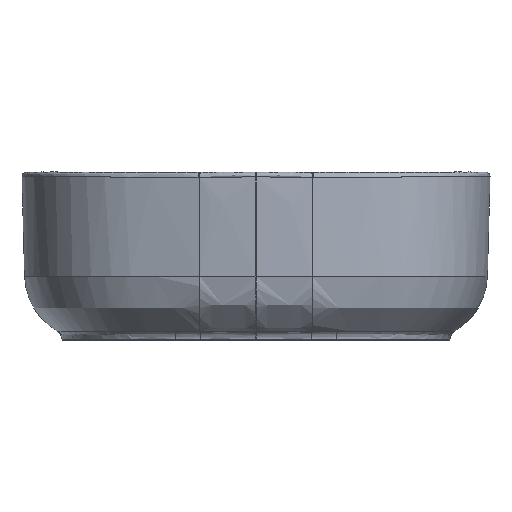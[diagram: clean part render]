
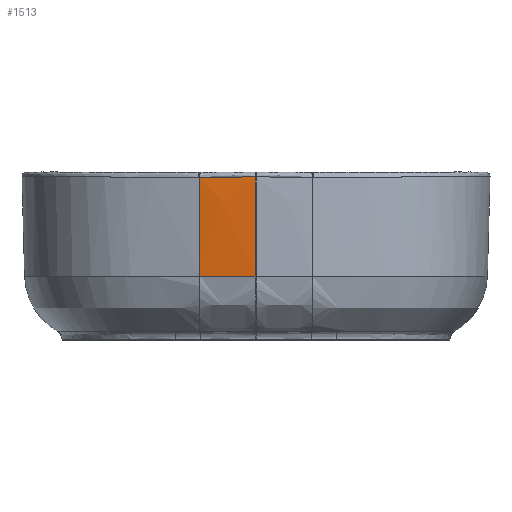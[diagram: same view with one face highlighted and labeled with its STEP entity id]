
A CAD part, front view. The second image highlights one B-rep face of the part: STEP entity #1513.
In plain terms, the highlighted free-form (B-spline) face has degree [5, 5] with [6, 15] control points.
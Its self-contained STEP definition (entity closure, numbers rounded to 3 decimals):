
#1513=ADVANCED_FACE('',(#1646),#3912,.T.);
#1646=FACE_OUTER_BOUND('',#1780,.T.);
#1780=EDGE_LOOP('',(#1998,#1999,#2000,#2001));
#1998=ORIENTED_EDGE('',*,*,#2498,.T.);
#1999=ORIENTED_EDGE('',*,*,#2501,.T.);
#2000=ORIENTED_EDGE('',*,*,#2500,.T.);
#2001=ORIENTED_EDGE('',*,*,#2499,.T.);
#2498=EDGE_CURVE('',#3498,#3501,#2998,.T.);
#2499=EDGE_CURVE('',#3499,#3498,#2999,.T.);
#2500=EDGE_CURVE('',#3500,#3499,#3000,.T.);
#2501=EDGE_CURVE('',#3501,#3500,#3001,.T.);
#2998=B_SPLINE_CURVE_WITH_KNOTS('',5,(#13649,#13650,#13651,#13652,#13653,
#13654,#13655,#13656,#13657,#13658,#13659,#13660,#13661,#13662,#13663,#13664,
#13665,#13666,#13667,#13668,#13669,#13670,#13671,#13672,#13673,#13674,#13675,
#13676,#13677,#13678),.UNSPECIFIED.,.F.,.F.,(6,3,3,3,3,3,3,3,3,6),(0.,4.692,
9.384,18.768,37.536,46.92,56.303,75.071,
112.607,150.143),.UNSPECIFIED.);
#2999=B_SPLINE_CURVE_WITH_KNOTS('',4,(#13679,#13680,#13681,#13682,#13683),
 .UNSPECIFIED.,.F.,.F.,(5,5),(360.352,433.81),.UNSPECIFIED.);
#3000=B_SPLINE_CURVE_WITH_KNOTS('',3,(#13684,#13685,#13686,#13687),
 .UNSPECIFIED.,.F.,.F.,(4,4),(210.59,360.352),.UNSPECIFIED.);
#3001=B_SPLINE_CURVE_WITH_KNOTS('',3,(#13688,#13689,#13690,#13691),
 .UNSPECIFIED.,.F.,.F.,(4,4),(150.143,210.59),.UNSPECIFIED.);
#3498=VERTEX_POINT('',#13645);
#3499=VERTEX_POINT('',#13646);
#3500=VERTEX_POINT('',#13647);
#3501=VERTEX_POINT('',#13648);
#3912=B_SPLINE_SURFACE_WITH_KNOTS('',5,5,((#13555,#13556,#13557,#13558,
#13559,#13560,#13561,#13562,#13563,#13564,#13565,#13566,#13567,#13568,#13569),
(#13570,#13571,#13572,#13573,#13574,#13575,#13576,#13577,#13578,#13579,
#13580,#13581,#13582,#13583,#13584),(#13585,#13586,#13587,#13588,#13589,
#13590,#13591,#13592,#13593,#13594,#13595,#13596,#13597,#13598,#13599),
(#13600,#13601,#13602,#13603,#13604,#13605,#13606,#13607,#13608,#13609,
#13610,#13611,#13612,#13613,#13614),(#13615,#13616,#13617,#13618,#13619,
#13620,#13621,#13622,#13623,#13624,#13625,#13626,#13627,#13628,#13629),
(#13630,#13631,#13632,#13633,#13634,#13635,#13636,#13637,#13638,#13639,
#13640,#13641,#13642,#13643,#13644)),.UNSPECIFIED.,.F.,.F.,.F.,(6,6),(6,
3,3,3,6),(0.,120.895),(0.,74.881,112.322,149.763,168.483),
 .UNSPECIFIED.);
#13555=CARTESIAN_POINT('',(60.,-191.2,-111.832));
#13556=CARTESIAN_POINT('',(60.,-191.485,-101.246));
#13557=CARTESIAN_POINT('',(60.,-191.77,-90.66));
#13558=CARTESIAN_POINT('',(60.,-192.055,-80.074));
#13559=CARTESIAN_POINT('',(60.,-192.483,-64.195));
#13560=CARTESIAN_POINT('',(60.,-192.91,-48.316));
#13561=CARTESIAN_POINT('',(60.,-193.053,-43.023));
#13562=CARTESIAN_POINT('',(60.,-193.338,-32.437));
#13563=CARTESIAN_POINT('',(60.,-193.623,-21.851));
#13564=CARTESIAN_POINT('',(60.,-193.765,-16.558));
#13565=CARTESIAN_POINT('',(60.,-193.979,-8.618));
#13566=CARTESIAN_POINT('',(60.,-194.193,-0.678));
#13567=CARTESIAN_POINT('',(60.,-194.264,1.968));
#13568=CARTESIAN_POINT('',(60.,-194.335,4.615));
#13569=CARTESIAN_POINT('',(60.,-194.407,7.261));
#13570=CARTESIAN_POINT('',(35.996,-195.12,-111.935));
#13571=CARTESIAN_POINT('',(35.997,-195.411,-101.349));
#13572=CARTESIAN_POINT('',(35.998,-195.701,-90.763));
#13573=CARTESIAN_POINT('',(35.999,-195.988,-80.177));
#13574=CARTESIAN_POINT('',(35.999,-196.416,-64.298));
#13575=CARTESIAN_POINT('',(35.999,-196.842,-48.419));
#13576=CARTESIAN_POINT('',(35.996,-196.964,-43.054));
#13577=CARTESIAN_POINT('',(36.003,-197.287,-32.612));
#13578=CARTESIAN_POINT('',(35.996,-197.531,-21.881));
#13579=CARTESIAN_POINT('',(36.014,-197.774,-16.962));
#13580=CARTESIAN_POINT('',(35.977,-197.77,-8.225));
#13581=CARTESIAN_POINT('',(36.024,-198.255,-1.292));
#13582=CARTESIAN_POINT('',(36.041,-198.424,1.117));
#13583=CARTESIAN_POINT('',(36.057,-198.593,3.527));
#13584=CARTESIAN_POINT('',(36.074,-198.761,5.936));
#13585=CARTESIAN_POINT('',(11.997,-197.08,-111.986));
#13586=CARTESIAN_POINT('',(11.998,-197.375,-101.4));
#13587=CARTESIAN_POINT('',(11.999,-197.666,-90.814));
#13588=CARTESIAN_POINT('',(11.999,-197.954,-80.228));
#13589=CARTESIAN_POINT('',(11.999,-198.383,-64.349));
#13590=CARTESIAN_POINT('',(12.,-198.808,-48.47));
#13591=CARTESIAN_POINT('',(11.997,-198.92,-43.069));
#13592=CARTESIAN_POINT('',(12.002,-199.261,-32.699));
#13593=CARTESIAN_POINT('',(11.997,-199.485,-21.897));
#13594=CARTESIAN_POINT('',(12.01,-199.778,-17.165));
#13595=CARTESIAN_POINT('',(11.982,-199.666,-8.029));
#13596=CARTESIAN_POINT('',(12.018,-200.287,-1.599));
#13597=CARTESIAN_POINT('',(12.031,-200.508,0.691));
#13598=CARTESIAN_POINT('',(12.044,-200.729,2.98));
#13599=CARTESIAN_POINT('',(12.056,-200.95,5.27));
#13600=CARTESIAN_POINT('',(-11.997,-197.08,-111.986));
#13601=CARTESIAN_POINT('',(-11.998,-197.374,-101.4));
#13602=CARTESIAN_POINT('',(-11.999,-197.666,-90.814));
#13603=CARTESIAN_POINT('',(-11.999,-197.954,-80.228));
#13604=CARTESIAN_POINT('',(-11.999,-198.383,-64.349));
#13605=CARTESIAN_POINT('',(-12.,-198.808,-48.47));
#13606=CARTESIAN_POINT('',(-11.997,-198.92,-43.069));
#13607=CARTESIAN_POINT('',(-12.002,-199.261,-32.699));
#13608=CARTESIAN_POINT('',(-11.997,-199.485,-21.897));
#13609=CARTESIAN_POINT('',(-12.01,-199.778,-17.165));
#13610=CARTESIAN_POINT('',(-11.982,-199.666,-8.029));
#13611=CARTESIAN_POINT('',(-12.018,-200.287,-1.599));
#13612=CARTESIAN_POINT('',(-12.031,-200.508,0.691));
#13613=CARTESIAN_POINT('',(-12.044,-200.729,2.98));
#13614=CARTESIAN_POINT('',(-12.056,-200.95,5.27));
#13615=CARTESIAN_POINT('',(-35.996,-195.12,-111.935));
#13616=CARTESIAN_POINT('',(-35.997,-195.411,-101.349));
#13617=CARTESIAN_POINT('',(-35.998,-195.701,-90.763));
#13618=CARTESIAN_POINT('',(-35.999,-195.988,-80.177));
#13619=CARTESIAN_POINT('',(-35.999,-196.416,-64.298));
#13620=CARTESIAN_POINT('',(-35.999,-196.842,-48.419));
#13621=CARTESIAN_POINT('',(-35.996,-196.964,-43.054));
#13622=CARTESIAN_POINT('',(-36.003,-197.287,-32.612));
#13623=CARTESIAN_POINT('',(-35.996,-197.531,-21.881));
#13624=CARTESIAN_POINT('',(-36.014,-197.774,-16.962));
#13625=CARTESIAN_POINT('',(-35.977,-197.77,-8.225));
#13626=CARTESIAN_POINT('',(-36.024,-198.255,-1.292));
#13627=CARTESIAN_POINT('',(-36.041,-198.424,1.117));
#13628=CARTESIAN_POINT('',(-36.057,-198.593,3.527));
#13629=CARTESIAN_POINT('',(-36.074,-198.761,5.936));
#13630=CARTESIAN_POINT('',(-60.,-191.2,-111.832));
#13631=CARTESIAN_POINT('',(-60.,-191.485,-101.246));
#13632=CARTESIAN_POINT('',(-60.,-191.77,-90.66));
#13633=CARTESIAN_POINT('',(-60.,-192.055,-80.074));
#13634=CARTESIAN_POINT('',(-60.,-192.483,-64.195));
#13635=CARTESIAN_POINT('',(-60.,-192.91,-48.316));
#13636=CARTESIAN_POINT('',(-60.,-193.053,-43.023));
#13637=CARTESIAN_POINT('',(-60.,-193.338,-32.437));
#13638=CARTESIAN_POINT('',(-60.,-193.623,-21.851));
#13639=CARTESIAN_POINT('',(-60.,-193.765,-16.558));
#13640=CARTESIAN_POINT('',(-60.,-193.979,-8.618));
#13641=CARTESIAN_POINT('',(-60.,-194.193,-0.678));
#13642=CARTESIAN_POINT('',(-60.,-194.264,1.968));
#13643=CARTESIAN_POINT('',(-60.,-194.335,4.615));
#13644=CARTESIAN_POINT('',(-60.,-194.407,7.261));
#13645=CARTESIAN_POINT('',(0.,-198.982,-5.9));
#13646=CARTESIAN_POINT('',(-60.,-194.05,-5.972));
#13647=CARTESIAN_POINT('',(-60.,-191.2,-111.832));
#13648=CARTESIAN_POINT('',(0.,-196.1,-111.961));
#13649=CARTESIAN_POINT('',(0.,-198.982,-5.9));
#13650=CARTESIAN_POINT('',(0.,-198.952,-6.516));
#13651=CARTESIAN_POINT('',(0.,-198.925,-7.147));
#13652=CARTESIAN_POINT('',(0.,-198.903,-7.793));
#13653=CARTESIAN_POINT('',(0.,-198.862,-9.101));
#13654=CARTESIAN_POINT('',(0.,-198.829,-10.435));
#13655=CARTESIAN_POINT('',(0.,-198.813,-11.105));
#13656=CARTESIAN_POINT('',(0.,-198.767,-13.123));
#13657=CARTESIAN_POINT('',(0.,-198.723,-15.146));
#13658=CARTESIAN_POINT('',(0.,-198.692,-16.487));
#13659=CARTESIAN_POINT('',(0.,-198.59,-20.483));
#13660=CARTESIAN_POINT('',(0.,-198.472,-24.42));
#13661=CARTESIAN_POINT('',(0.,-198.391,-27.036));
#13662=CARTESIAN_POINT('',(0.,-198.293,-31.046));
#13663=CARTESIAN_POINT('',(0.,-198.183,-35.013));
#13664=CARTESIAN_POINT('',(0.,-198.145,-36.332));
#13665=CARTESIAN_POINT('',(0.,-198.071,-38.972));
#13666=CARTESIAN_POINT('',(0.,-197.998,-41.619));
#13667=CARTESIAN_POINT('',(0.,-197.962,-42.944));
#13668=CARTESIAN_POINT('',(0.,-197.857,-46.928));
#13669=CARTESIAN_POINT('',(0.,-197.755,-50.925));
#13670=CARTESIAN_POINT('',(0.,-197.687,-53.589));
#13671=CARTESIAN_POINT('',(0.,-197.474,-61.55));
#13672=CARTESIAN_POINT('',(0.,-197.259,-69.508));
#13673=CARTESIAN_POINT('',(0.,-197.116,-74.816));
#13674=CARTESIAN_POINT('',(0.,-196.828,-85.429));
#13675=CARTESIAN_POINT('',(0.,-196.539,-96.041));
#13676=CARTESIAN_POINT('',(0.,-196.393,-101.348));
#13677=CARTESIAN_POINT('',(0.,-196.247,-106.654));
#13678=CARTESIAN_POINT('',(0.,-196.1,-111.961));
#13679=CARTESIAN_POINT('',(-60.,-194.05,-5.972));
#13680=CARTESIAN_POINT('',(-45.04,-196.507,-5.943));
#13681=CARTESIAN_POINT('',(-30.121,-198.148,-5.915));
#13682=CARTESIAN_POINT('',(-15.059,-198.982,-5.9));
#13683=CARTESIAN_POINT('',(0.,-198.982,-5.9));
#13684=CARTESIAN_POINT('',(-60.,-191.2,-111.832));
#13685=CARTESIAN_POINT('',(-60.,-192.15,-76.546));
#13686=CARTESIAN_POINT('',(-60.,-193.1,-41.259));
#13687=CARTESIAN_POINT('',(-60.,-194.05,-5.972));
#13688=CARTESIAN_POINT('',(0.,-196.1,-111.961));
#13689=CARTESIAN_POINT('',(-19.998,-196.1,-111.961));
#13690=CARTESIAN_POINT('',(-39.997,-194.467,-111.918));
#13691=CARTESIAN_POINT('',(-60.,-191.2,-111.832));
